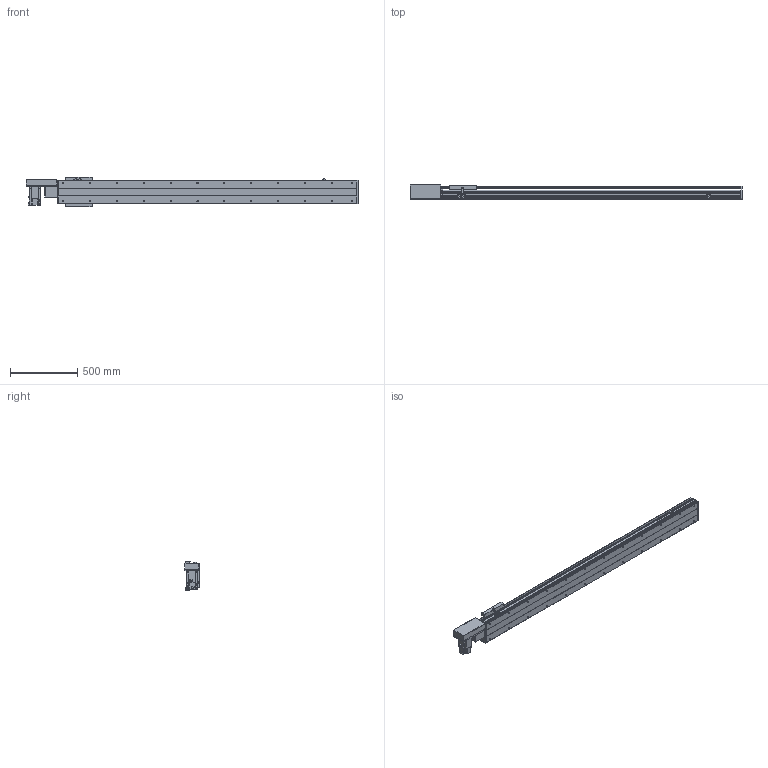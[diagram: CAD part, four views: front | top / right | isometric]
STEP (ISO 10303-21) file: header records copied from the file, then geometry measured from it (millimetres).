
FILE_DESCRIPTION(/* description */ ('STEP AP214'),/* implementation_level */ '2;1');
FILE_NAME(/* name */ 'PBS200-P40-S1850-R-T75-C1-N(0)',/* time_stamp */ '2022-06-11T08:07:39+02:00',/* author */ ('License CC BY-ND 4.0'),/* organization */ ('CADENAS'),/* preprocessor_version */ 'ST-DEVELOPER v18.102',/* originating_system */ 'PARTsolutions',/* authorisation */ ' ');
FILE_SCHEMA (('AUTOMOTIVE_DESIGN {1 0 10303 214 3 1 1}'));
Length unit declared in the file: millimetre
Products named in the file (7): PBS200-P40-S1850-R-T75-C1-N(0); PBS200_sensor; PBS200_plant; PBS200_sliser; T75-p1; PBS200T-R_motors; PBS200-S1850()_body
Assembly tree (8 placements, depth 2):
  PBS200-P40-S1850-R-T75-C1-N(0)
    PBS200_sensor  x3
    PBS200_plant
    PBS200_sliser
    T75-p1
    PBS200T-R_motors
    PBS200-S1850()_body
Bounding box: 2472 x 109 x 221 mm (x, y, z)
Volume: 16545168.9 mm3; surface area: 2656330.5 mm2
Topology: 8 solids, 8 shells, 944 faces, 2414 edges, 1572 vertices
Faces by surface type: plane 582, cylinder 306, cone 56
Full cylindrical faces by diameter (mm): 2.459 x6, 3.242 x4, 4.5 x6, 4.917 x4, 5 x6, 6 x7, 6.6 x8, 6.647 x28, 8 x6, 10 x4, 12 x8, 38 x2, 40 x1, 70 x1
Entity records: 25061 total; most frequent: DIRECTION 4423, CARTESIAN_POINT 4264, ORIENTED_EDGE 4030, EDGE_CURVE 2015, AXIS2_PLACEMENT_3D 1555, VERTEX_POINT 1396, LINE 1313, VECTOR 1313
